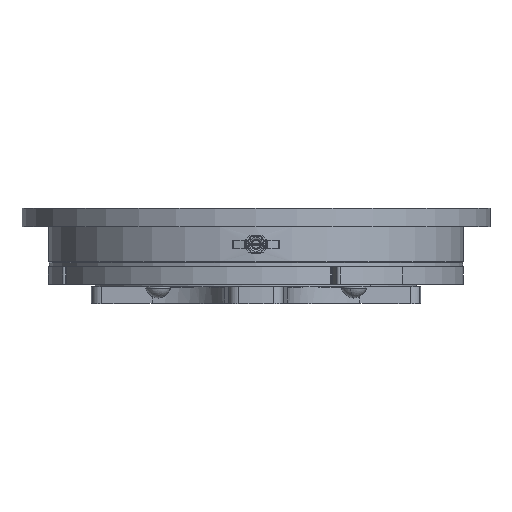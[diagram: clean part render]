
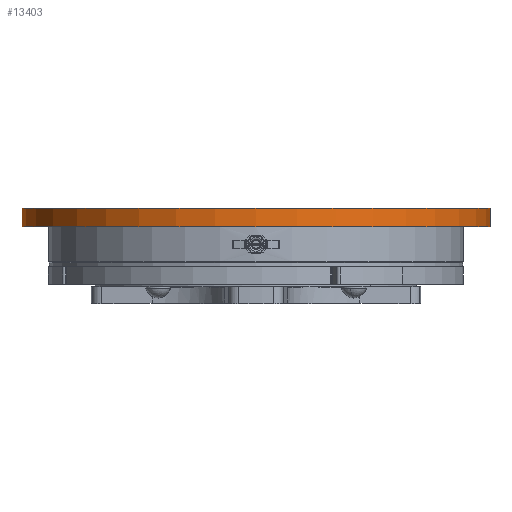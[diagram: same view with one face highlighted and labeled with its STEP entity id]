
A CAD part, front view. The second image highlights one B-rep face of the part: STEP entity #13403.
In plain terms, the highlighted cylindrical face has radius 177.5 mm (diameter 355 mm), a partial arc.
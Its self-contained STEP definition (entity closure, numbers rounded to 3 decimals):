
#217 = AXIS2_PLACEMENT_3D ( 'NONE', #5118, #11753, #15245 ) ;
#518 = DIRECTION ( 'NONE',  ( 0., 0., -1. ) ) ;
#962 = FACE_OUTER_BOUND ( 'NONE', #8203, .T. ) ;
#1482 = DIRECTION ( 'NONE',  ( 0., 0., -1. ) ) ;
#1610 = CIRCLE ( 'NONE', #4508, 177.5 ) ;
#2566 = CARTESIAN_POINT ( 'NONE',  ( -177.5, 0., -28.143 ) ) ;
#2946 = EDGE_CURVE ( 'NONE', #3146, #18925, #1610, .T. ) ;
#3146 = VERTEX_POINT ( 'NONE', #3962 ) ;
#3246 = AXIS2_PLACEMENT_3D ( 'NONE', #3571, #17187, #4926 ) ;
#3571 = CARTESIAN_POINT ( 'NONE',  ( 0., 0., -28.143 ) ) ;
#3952 = LINE ( 'NONE', #2566, #5743 ) ;
#3962 = CARTESIAN_POINT ( 'NONE',  ( 177.5, 0., -14. ) ) ;
#4508 = AXIS2_PLACEMENT_3D ( 'NONE', #21843, #1482, #14665 ) ;
#4849 = CARTESIAN_POINT ( 'NONE',  ( -177.5, 0., 0. ) ) ;
#4926 = DIRECTION ( 'NONE',  ( -1., 0., 0. ) ) ;
#5118 = CARTESIAN_POINT ( 'NONE',  ( 0., 0., 0. ) ) ;
#5743 = VECTOR ( 'NONE', #15990, 1000. ) ;
#7081 = CIRCLE ( 'NONE', #217, 177.5 ) ;
#7270 = EDGE_CURVE ( 'NONE', #10689, #3146, #12712, .T. ) ;
#8203 = EDGE_LOOP ( 'NONE', ( #19959, #10844, #21531, #8990 ) ) ;
#8990 = ORIENTED_EDGE ( 'NONE', *, *, #2946, .F. ) ;
#10689 = VERTEX_POINT ( 'NONE', #18332 ) ;
#10844 = ORIENTED_EDGE ( 'NONE', *, *, #21770, .T. ) ;
#11606 = VECTOR ( 'NONE', #518, 1000. ) ;
#11753 = DIRECTION ( 'NONE',  ( 0., 0., -1. ) ) ;
#12712 = LINE ( 'NONE', #13653, #11606 ) ;
#13403 = ADVANCED_FACE ( 'NONE', ( #962 ), #21575, .T. ) ;
#13653 = CARTESIAN_POINT ( 'NONE',  ( 177.5, 0., -28.143 ) ) ;
#14665 = DIRECTION ( 'NONE',  ( -1., 0., 0. ) ) ;
#15245 = DIRECTION ( 'NONE',  ( -1., 0., 0. ) ) ;
#15853 = VERTEX_POINT ( 'NONE', #4849 ) ;
#15990 = DIRECTION ( 'NONE',  ( 0., 0., -1. ) ) ;
#17187 = DIRECTION ( 'NONE',  ( 0., 0., -1. ) ) ;
#18332 = CARTESIAN_POINT ( 'NONE',  ( 177.5, 0., 0. ) ) ;
#18925 = VERTEX_POINT ( 'NONE', #22239 ) ;
#19959 = ORIENTED_EDGE ( 'NONE', *, *, #7270, .F. ) ;
#20650 = EDGE_CURVE ( 'NONE', #15853, #18925, #3952, .T. ) ;
#21531 = ORIENTED_EDGE ( 'NONE', *, *, #20650, .T. ) ;
#21575 = CYLINDRICAL_SURFACE ( 'NONE', #3246, 177.5 ) ;
#21770 = EDGE_CURVE ( 'NONE', #10689, #15853, #7081, .T. ) ;
#21843 = CARTESIAN_POINT ( 'NONE',  ( 0., 0., -14. ) ) ;
#22239 = CARTESIAN_POINT ( 'NONE',  ( -177.5, 0., -14. ) ) ;
